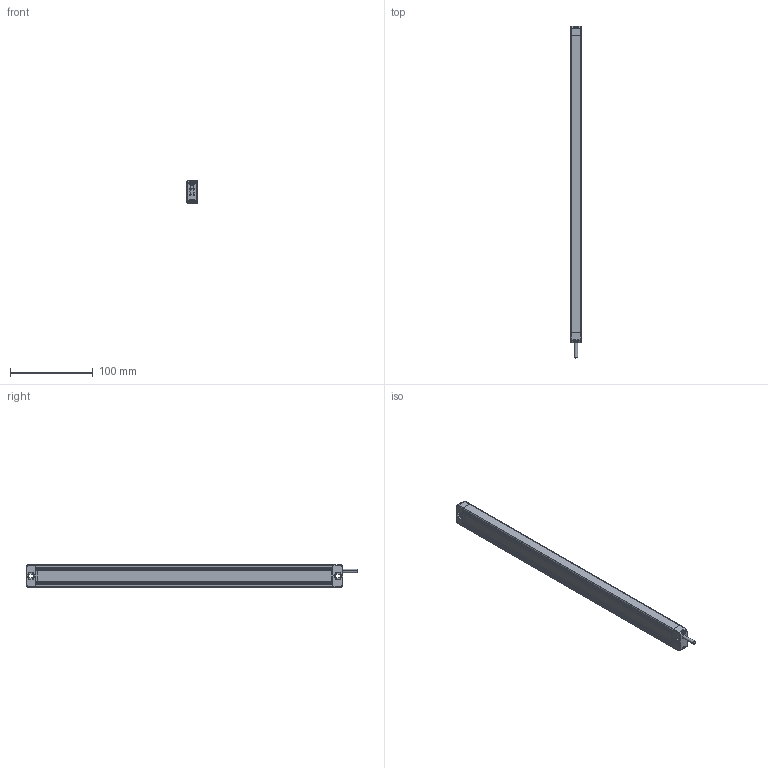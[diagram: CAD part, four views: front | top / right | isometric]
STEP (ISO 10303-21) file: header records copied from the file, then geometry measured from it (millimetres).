
FILE_DESCRIPTION((''),'2;1');
FILE_NAME('EB13-0320_ASM','2021-07-12T16:50:34',('18720616900'),(''),'CREO PARAMETRIC BY PTC INC, 2019010','CREO PARAMETRIC BY PTC INC, 2019010','');
FILE_SCHEMA(('CONFIG_CONTROL_DESIGN'));
Products named in the file (7): EB1300; 000; 0002; 0004; EB13-0320_ASM
Assembly tree (9 placements, depth 2):
  EB13-0320_ASM
    EB1300
    000
    0002
    000
    0004  x4
    000
Bounding box: 13 x 402.4 x 28 mm (x, y, z)
Volume: 143296.9 mm3; surface area: 51630.8 mm2
Topology: 9 solids, 27 shells, 1032 faces, 3520 edges, 2523 vertices
Faces by surface type: cylinder 544, plane 295, bspline 118, torus 40, sphere 31, cone 4
Entity records: 52594 total; most frequent: CARTESIAN_POINT 37957, ORIENTED_EDGE 3370, DIRECTION 2501, EDGE_CURVE 1685, VERTEX_POINT 1150, AXIS2_PLACEMENT_3D 849, VECTOR 803, LINE 803
